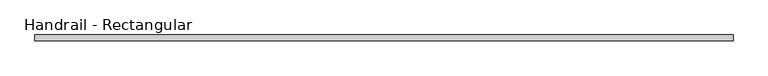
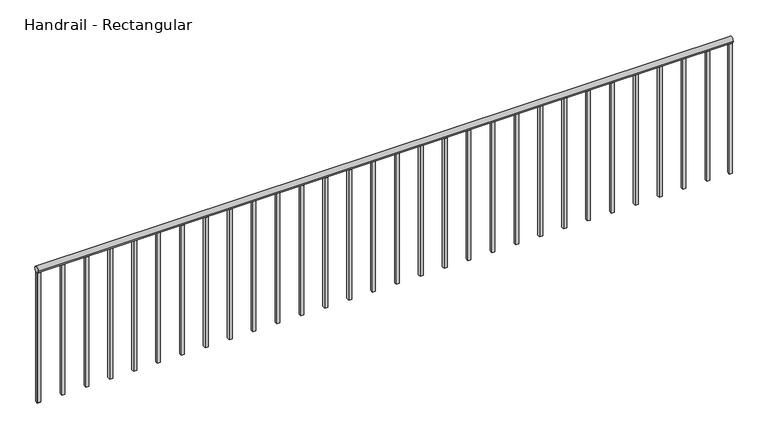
"""IFC4 building model written with IfcOpenShell, lengths in millimetres: railing geometry, Handrail - Rectangular."""

from ifc_helpers import new_model, si_unit, point, frame, frame_2d, origin, place, context, project, spatial, polyline, circle_curve, trimmed, segment, composite_curve, outline, extrude, source, transform, mapped, element, save


def handrail_rectangular_1ba635f3(model_context):
    return source(origin(), model_context, "Body", "SweptSolid", [
        extrude(outline(composite_curve([segment(trimmed(circle_curve(frame_2d((11944.8316867, 3943.35)), 19.05), [point((11963.8816867, 3943.35))], [point((11925.7816867, 3943.35))], False, "CARTESIAN"), True, "CONTINUOUS"), segment(trimmed(circle_curve(frame_2d((11944.8316867, 3943.35)), 19.05), [point((11925.7816867, 3943.35))], [point((11963.8816867, 3943.35))], False, "CARTESIAN"), True, "CONTINUOUS")], self_intersect=False)), frame((-30440.2839563, 0.0, 0.0), z_axis=(1.0, 0.0, 0.0), x_axis=(0.0, 1.0, 0.0)), (0.0, 0.0, 1.0), 4432.3),
        extrude(outline(polyline([(-30418.0589563, 11935.3066867), (-30437.1089563, 11935.3066867), (-30437.1089563, 11954.3566867), (-30418.0589563, 11954.3566867), (-30418.0589563, 11935.3066867)])), frame((0.0, 0.0, 3048.0), z_axis=(0.0, 0.0, 1.0), x_axis=(1.0, 0.0, 0.0)), (0.0, 0.0, 1.0), 876.3),
        extrude(outline(polyline([(-30265.6589563, 11935.3066867), (-30284.7089563, 11935.3066867), (-30284.7089563, 11954.3566867), (-30265.6589563, 11954.3566867), (-30265.6589563, 11935.3066867)])), frame((0.0, 0.0, 3048.0), z_axis=(0.0, 0.0, 1.0), x_axis=(1.0, 0.0, 0.0)), (0.0, 0.0, 1.0), 876.3),
        extrude(outline(polyline([(-30113.2589563, 11935.3066867), (-30132.3089563, 11935.3066867), (-30132.3089563, 11954.3566867), (-30113.2589563, 11954.3566867), (-30113.2589563, 11935.3066867)])), frame((0.0, 0.0, 3048.0), z_axis=(0.0, 0.0, 1.0), x_axis=(1.0, 0.0, 0.0)), (0.0, 0.0, 1.0), 876.3),
        extrude(outline(polyline([(-29960.8589563, 11935.3066867), (-29979.9089563, 11935.3066867), (-29979.9089563, 11954.3566867), (-29960.8589563, 11954.3566867), (-29960.8589563, 11935.3066867)])), frame((0.0, 0.0, 3048.0), z_axis=(0.0, 0.0, 1.0), x_axis=(1.0, 0.0, 0.0)), (0.0, 0.0, 1.0), 876.3),
        extrude(outline(polyline([(-29808.4589563, 11935.3066867), (-29827.5089563, 11935.3066867), (-29827.5089563, 11954.3566867), (-29808.4589563, 11954.3566867), (-29808.4589563, 11935.3066867)])), frame((0.0, 0.0, 3048.0), z_axis=(0.0, 0.0, 1.0), x_axis=(1.0, 0.0, 0.0)), (0.0, 0.0, 1.0), 876.3),
        extrude(outline(polyline([(-29656.0589563, 11935.3066867), (-29675.1089563, 11935.3066867), (-29675.1089563, 11954.3566867), (-29656.0589563, 11954.3566867), (-29656.0589563, 11935.3066867)])), frame((0.0, 0.0, 3048.0), z_axis=(0.0, 0.0, 1.0), x_axis=(1.0, 0.0, 0.0)), (0.0, 0.0, 1.0), 876.3),
        extrude(outline(polyline([(-29503.6589563, 11935.3066867), (-29522.7089563, 11935.3066867), (-29522.7089563, 11954.3566867), (-29503.6589563, 11954.3566867), (-29503.6589563, 11935.3066867)])), frame((0.0, 0.0, 3048.0), z_axis=(0.0, 0.0, 1.0), x_axis=(1.0, 0.0, 0.0)), (0.0, 0.0, 1.0), 876.3),
        extrude(outline(polyline([(-29351.2589563, 11935.3066867), (-29370.3089563, 11935.3066867), (-29370.3089563, 11954.3566867), (-29351.2589563, 11954.3566867), (-29351.2589563, 11935.3066867)])), frame((0.0, 0.0, 3048.0), z_axis=(0.0, 0.0, 1.0), x_axis=(1.0, 0.0, 0.0)), (0.0, 0.0, 1.0), 876.3),
        extrude(outline(polyline([(-29198.8589563, 11935.3066867), (-29217.9089563, 11935.3066867), (-29217.9089563, 11954.3566867), (-29198.8589563, 11954.3566867), (-29198.8589563, 11935.3066867)])), frame((0.0, 0.0, 3048.0), z_axis=(0.0, 0.0, 1.0), x_axis=(1.0, 0.0, 0.0)), (0.0, 0.0, 1.0), 876.3),
        extrude(outline(polyline([(-29046.4589563, 11935.3066867), (-29065.5089563, 11935.3066867), (-29065.5089563, 11954.3566867), (-29046.4589563, 11954.3566867), (-29046.4589563, 11935.3066867)])), frame((0.0, 0.0, 3048.0), z_axis=(0.0, 0.0, 1.0), x_axis=(1.0, 0.0, 0.0)), (0.0, 0.0, 1.0), 876.3),
        extrude(outline(polyline([(-28894.0589563, 11935.3066867), (-28913.1089563, 11935.3066867), (-28913.1089563, 11954.3566867), (-28894.0589563, 11954.3566867), (-28894.0589563, 11935.3066867)])), frame((0.0, 0.0, 3048.0), z_axis=(0.0, 0.0, 1.0), x_axis=(1.0, 0.0, 0.0)), (0.0, 0.0, 1.0), 876.3),
        extrude(outline(polyline([(-28741.6589563, 11935.3066867), (-28760.7089563, 11935.3066867), (-28760.7089563, 11954.3566867), (-28741.6589563, 11954.3566867), (-28741.6589563, 11935.3066867)])), frame((0.0, 0.0, 3048.0), z_axis=(0.0, 0.0, 1.0), x_axis=(1.0, 0.0, 0.0)), (0.0, 0.0, 1.0), 876.3),
        extrude(outline(polyline([(-28589.2589563, 11935.3066867), (-28608.3089563, 11935.3066867), (-28608.3089563, 11954.3566867), (-28589.2589563, 11954.3566867), (-28589.2589563, 11935.3066867)])), frame((0.0, 0.0, 3048.0), z_axis=(0.0, 0.0, 1.0), x_axis=(1.0, 0.0, 0.0)), (0.0, 0.0, 1.0), 876.3),
        extrude(outline(polyline([(-28436.8589563, 11935.3066867), (-28455.9089563, 11935.3066867), (-28455.9089563, 11954.3566867), (-28436.8589563, 11954.3566867), (-28436.8589563, 11935.3066867)])), frame((0.0, 0.0, 3048.0), z_axis=(0.0, 0.0, 1.0), x_axis=(1.0, 0.0, 0.0)), (0.0, 0.0, 1.0), 876.3),
        extrude(outline(polyline([(-28284.4589563, 11935.3066867), (-28303.5089563, 11935.3066867), (-28303.5089563, 11954.3566867), (-28284.4589563, 11954.3566867), (-28284.4589563, 11935.3066867)])), frame((0.0, 0.0, 3048.0), z_axis=(0.0, 0.0, 1.0), x_axis=(1.0, 0.0, 0.0)), (0.0, 0.0, 1.0), 876.3),
        extrude(outline(polyline([(-28132.0589563, 11935.3066867), (-28151.1089563, 11935.3066867), (-28151.1089563, 11954.3566867), (-28132.0589563, 11954.3566867), (-28132.0589563, 11935.3066867)])), frame((0.0, 0.0, 3048.0), z_axis=(0.0, 0.0, 1.0), x_axis=(1.0, 0.0, 0.0)), (0.0, 0.0, 1.0), 876.3),
        extrude(outline(polyline([(-27979.6589563, 11935.3066867), (-27998.7089563, 11935.3066867), (-27998.7089563, 11954.3566867), (-27979.6589563, 11954.3566867), (-27979.6589563, 11935.3066867)])), frame((0.0, 0.0, 3048.0), z_axis=(0.0, 0.0, 1.0), x_axis=(1.0, 0.0, 0.0)), (0.0, 0.0, 1.0), 876.3),
        extrude(outline(polyline([(-27827.2589563, 11935.3066867), (-27846.3089563, 11935.3066867), (-27846.3089563, 11954.3566867), (-27827.2589563, 11954.3566867), (-27827.2589563, 11935.3066867)])), frame((0.0, 0.0, 3048.0), z_axis=(0.0, 0.0, 1.0), x_axis=(1.0, 0.0, 0.0)), (0.0, 0.0, 1.0), 876.3),
        extrude(outline(polyline([(-27674.8589563, 11935.3066867), (-27693.9089563, 11935.3066867), (-27693.9089563, 11954.3566867), (-27674.8589563, 11954.3566867), (-27674.8589563, 11935.3066867)])), frame((0.0, 0.0, 3048.0), z_axis=(0.0, 0.0, 1.0), x_axis=(1.0, 0.0, 0.0)), (0.0, 0.0, 1.0), 876.3),
        extrude(outline(polyline([(-27522.4589563, 11935.3066867), (-27541.5089563, 11935.3066867), (-27541.5089563, 11954.3566867), (-27522.4589563, 11954.3566867), (-27522.4589563, 11935.3066867)])), frame((0.0, 0.0, 3048.0), z_axis=(0.0, 0.0, 1.0), x_axis=(1.0, 0.0, 0.0)), (0.0, 0.0, 1.0), 876.3),
        extrude(outline(polyline([(-27370.0589563, 11935.3066867), (-27389.1089563, 11935.3066867), (-27389.1089563, 11954.3566867), (-27370.0589563, 11954.3566867), (-27370.0589563, 11935.3066867)])), frame((0.0, 0.0, 3048.0), z_axis=(0.0, 0.0, 1.0), x_axis=(1.0, 0.0, 0.0)), (0.0, 0.0, 1.0), 876.3),
        extrude(outline(polyline([(-27217.6589563, 11935.3066867), (-27236.7089563, 11935.3066867), (-27236.7089563, 11954.3566867), (-27217.6589563, 11954.3566867), (-27217.6589563, 11935.3066867)])), frame((0.0, 0.0, 3048.0), z_axis=(0.0, 0.0, 1.0), x_axis=(1.0, 0.0, 0.0)), (0.0, 0.0, 1.0), 876.3),
        extrude(outline(polyline([(-27065.2589563, 11935.3066867), (-27084.3089563, 11935.3066867), (-27084.3089563, 11954.3566867), (-27065.2589563, 11954.3566867), (-27065.2589563, 11935.3066867)])), frame((0.0, 0.0, 3048.0), z_axis=(0.0, 0.0, 1.0), x_axis=(1.0, 0.0, 0.0)), (0.0, 0.0, 1.0), 876.3),
        extrude(outline(polyline([(-26912.8589563, 11935.3066867), (-26931.9089563, 11935.3066867), (-26931.9089563, 11954.3566867), (-26912.8589563, 11954.3566867), (-26912.8589563, 11935.3066867)])), frame((0.0, 0.0, 3048.0), z_axis=(0.0, 0.0, 1.0), x_axis=(1.0, 0.0, 0.0)), (0.0, 0.0, 1.0), 876.3),
        extrude(outline(polyline([(-26760.4589563, 11935.3066867), (-26779.5089563, 11935.3066867), (-26779.5089563, 11954.3566867), (-26760.4589563, 11954.3566867), (-26760.4589563, 11935.3066867)])), frame((0.0, 0.0, 3048.0), z_axis=(0.0, 0.0, 1.0), x_axis=(1.0, 0.0, 0.0)), (0.0, 0.0, 1.0), 876.3),
        extrude(outline(polyline([(-26608.0589563, 11935.3066867), (-26627.1089563, 11935.3066867), (-26627.1089563, 11954.3566867), (-26608.0589563, 11954.3566867), (-26608.0589563, 11935.3066867)])), frame((0.0, 0.0, 3048.0), z_axis=(0.0, 0.0, 1.0), x_axis=(1.0, 0.0, 0.0)), (0.0, 0.0, 1.0), 876.3),
        extrude(outline(polyline([(-26455.6589563, 11935.3066867), (-26474.7089563, 11935.3066867), (-26474.7089563, 11954.3566867), (-26455.6589563, 11954.3566867), (-26455.6589563, 11935.3066867)])), frame((0.0, 0.0, 3048.0), z_axis=(0.0, 0.0, 1.0), x_axis=(1.0, 0.0, 0.0)), (0.0, 0.0, 1.0), 876.3),
        extrude(outline(polyline([(-26303.2589563, 11935.3066867), (-26322.3089563, 11935.3066867), (-26322.3089563, 11954.3566867), (-26303.2589563, 11954.3566867), (-26303.2589563, 11935.3066867)])), frame((0.0, 0.0, 3048.0), z_axis=(0.0, 0.0, 1.0), x_axis=(1.0, 0.0, 0.0)), (0.0, 0.0, 1.0), 876.3),
        extrude(outline(polyline([(-26150.8589563, 11935.3066867), (-26169.9089563, 11935.3066867), (-26169.9089563, 11954.3566867), (-26150.8589563, 11954.3566867), (-26150.8589563, 11935.3066867)])), frame((0.0, 0.0, 3048.0), z_axis=(0.0, 0.0, 1.0), x_axis=(1.0, 0.0, 0.0)), (0.0, 0.0, 1.0), 876.3),
        extrude(outline(polyline([(-30421.2339563, 11935.3066867), (-30440.2839563, 11935.3066867), (-30440.2839563, 11954.3566867), (-30421.2339563, 11954.3566867), (-30421.2339563, 11935.3066867)])), frame((0.0, 0.0, 3048.0), z_axis=(0.0, 0.0, 1.0), x_axis=(1.0, 0.0, 0.0)), (0.0, 0.0, 1.0), 876.3),
        extrude(outline(polyline([(-26007.9839563, 11935.3066867), (-26027.0339563, 11935.3066867), (-26027.0339563, 11954.3566867), (-26007.9839563, 11954.3566867), (-26007.9839563, 11935.3066867)])), frame((0.0, 0.0, 3048.0), z_axis=(0.0, 0.0, 1.0), x_axis=(1.0, 0.0, 0.0)), (0.0, 0.0, 1.0), 876.3),
    ])


if __name__ == "__main__":
    model = new_model("IFC4")
    model_context = context("Model", 3, world=origin())
    ifc_project = project(units=[si_unit("LENGTHUNIT", "METRE", prefix="MILLI")], contexts=[model_context])
    site = spatial("IfcSite", under=ifc_project)
    building = spatial("IfcBuilding", under=site)
    placement = place(None, origin())
    handrail_rectangular_shape = handrail_rectangular_1ba635f3(model_context)
    element("IfcRailing", 1, ObjectType="Handrail - Rectangular", at=placement, inside=building, context=model_context, shape_type="MappedRepresentation", body=[
        mapped(handrail_rectangular_shape, transform((0.0, 0.0, 0.0), x_axis=(1.0, 0.0, 0.0), y_axis=(0.0, 1.0, 0.0), z_axis=(0.0, 0.0, 1.0))),
    ])
    save(model, "model.ifc")
